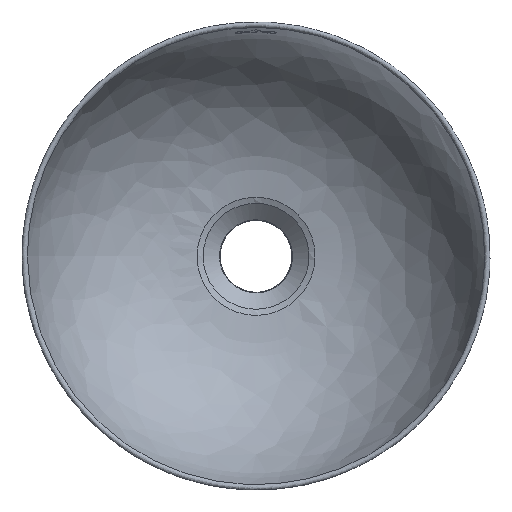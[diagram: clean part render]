
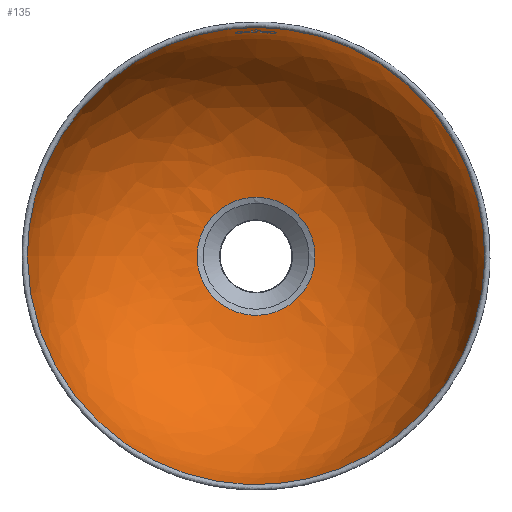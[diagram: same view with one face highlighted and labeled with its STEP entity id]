
A CAD part, top view. The second image highlights one B-rep face of the part: STEP entity #135.
In plain terms, the highlighted free-form (B-spline) face has degree [2, 3] with [9, 4] control points.
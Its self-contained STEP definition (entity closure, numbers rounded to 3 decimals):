
#135=ADVANCED_FACE('',(#248),#1693,.T.);
#248=FACE_OUTER_BOUND('',#361,.T.);
#361=EDGE_LOOP('',(#882,#883,#884,#885));
#882=ORIENTED_EDGE('',*,*,#1157,.T.);
#883=ORIENTED_EDGE('',*,*,#1154,.T.);
#884=ORIENTED_EDGE('',*,*,#1143,.F.);
#885=ORIENTED_EDGE('',*,*,#1154,.F.);
#1143=EDGE_CURVE('',#1587,#1587,#1411,.T.);
#1154=EDGE_CURVE('',#1592,#1587,#1419,.T.);
#1157=EDGE_CURVE('',#1592,#1592,#1422,.T.);
#1411=(
BOUNDED_CURVE()
B_SPLINE_CURVE(2,(#6459,#6460,#6461,#6462,#6463,#6464,#6465,#6466,#6467),
 .UNSPECIFIED.,.T.,.F.)
B_SPLINE_CURVE_WITH_KNOTS((3,2,2,2,3),(0.,59.335,118.669,
178.004,237.339),.UNSPECIFIED.)
CURVE()
GEOMETRIC_REPRESENTATION_ITEM()
RATIONAL_B_SPLINE_CURVE((1.,0.707,1.,0.707,1.,0.707,
1.,0.707,1.))
REPRESENTATION_ITEM('')
);
#1419=(
BOUNDED_CURVE()
B_SPLINE_CURVE(3,(#6519,#6520,#6521,#6522),.UNSPECIFIED.,.F.,.F.)
B_SPLINE_CURVE_WITH_KNOTS((4,4),(879.086,1044.792),
 .UNSPECIFIED.)
CURVE()
GEOMETRIC_REPRESENTATION_ITEM()
RATIONAL_B_SPLINE_CURVE((1.,0.886,0.886,1.))
REPRESENTATION_ITEM('')
);
#1422=(
BOUNDED_CURVE()
B_SPLINE_CURVE(2,(#6537,#6538,#6539,#6540,#6541,#6542,#6543,#6544,#6545),
 .UNSPECIFIED.,.T.,.F.)
B_SPLINE_CURVE_WITH_KNOTS((3,2,2,2,3),(0.,235.405,470.811,
706.216,941.621),.UNSPECIFIED.)
CURVE()
GEOMETRIC_REPRESENTATION_ITEM()
RATIONAL_B_SPLINE_CURVE((1.,0.707,1.,0.707,1.,0.707,
1.,0.707,1.))
REPRESENTATION_ITEM('')
);
#1587=VERTEX_POINT('',#6302);
#1592=VERTEX_POINT('',#6307);
#1693=(
BOUNDED_SURFACE()
B_SPLINE_SURFACE(2,3,((#6172,#6173,#6174,#6175),(#6176,#6177,#6178,#6179),
(#6180,#6181,#6182,#6183),(#6184,#6185,#6186,#6187),(#6188,#6189,#6190,
#6191),(#6192,#6193,#6194,#6195),(#6196,#6197,#6198,#6199),(#6200,#6201,
#6202,#6203),(#6204,#6205,#6206,#6207)),.UNSPECIFIED.,.T.,.F.,.F.)
B_SPLINE_SURFACE_WITH_KNOTS((3,2,2,2,3),(4,4),(0.,229.958,459.916,
689.874,919.832),(879.086,1044.792),
 .UNSPECIFIED.)
GEOMETRIC_REPRESENTATION_ITEM()
RATIONAL_B_SPLINE_SURFACE(((1.,0.886,0.886,0.999),
(0.707,0.627,0.626,0.706),
(1.,0.886,0.886,0.999),(0.707,
0.627,0.626,0.706),(1.,0.886,
0.886,0.999),(0.707,0.627,
0.626,0.706),(1.,0.886,0.886,
0.999),(0.707,0.627,0.626,
0.706),(1.,0.886,0.886,0.999)))
REPRESENTATION_ITEM('')
SURFACE()
);
#6172=CARTESIAN_POINT('',(11837.92,1341.326,-4106.006));
#6173=CARTESIAN_POINT('',(11849.521,1341.326,-4163.578));
#6174=CARTESIAN_POINT('',(11886.312,1341.326,-4209.857));
#6175=CARTESIAN_POINT('',(11946.542,1341.326,-4215.387));
#6176=CARTESIAN_POINT('',(11837.92,1194.93,-4106.006));
#6177=CARTESIAN_POINT('',(11849.521,1206.532,-4163.578));
#6178=CARTESIAN_POINT('',(11886.312,1243.322,-4209.857));
#6179=CARTESIAN_POINT('',(11946.542,1303.552,-4215.387));
#6180=CARTESIAN_POINT('',(11984.315,1194.93,-4106.006));
#6181=CARTESIAN_POINT('',(11984.315,1206.532,-4163.578));
#6182=CARTESIAN_POINT('',(11984.315,1243.322,-4209.857));
#6183=CARTESIAN_POINT('',(11984.316,1303.552,-4215.387));
#6184=CARTESIAN_POINT('',(12130.711,1194.93,-4106.006));
#6185=CARTESIAN_POINT('',(12119.11,1206.532,-4163.578));
#6186=CARTESIAN_POINT('',(12082.319,1243.322,-4209.857));
#6187=CARTESIAN_POINT('',(12022.089,1303.552,-4215.387));
#6188=CARTESIAN_POINT('',(12130.711,1341.326,-4106.006));
#6189=CARTESIAN_POINT('',(12119.11,1341.326,-4163.578));
#6190=CARTESIAN_POINT('',(12082.319,1341.326,-4209.857));
#6191=CARTESIAN_POINT('',(12022.089,1341.326,-4215.387));
#6192=CARTESIAN_POINT('',(12130.711,1487.722,-4106.006));
#6193=CARTESIAN_POINT('',(12119.11,1476.121,-4163.578));
#6194=CARTESIAN_POINT('',(12082.319,1439.33,-4209.857));
#6195=CARTESIAN_POINT('',(12022.089,1379.1,-4215.387));
#6196=CARTESIAN_POINT('',(11984.315,1487.722,-4106.006));
#6197=CARTESIAN_POINT('',(11984.315,1476.121,-4163.578));
#6198=CARTESIAN_POINT('',(11984.315,1439.33,-4209.857));
#6199=CARTESIAN_POINT('',(11984.315,1379.1,-4215.387));
#6200=CARTESIAN_POINT('',(11837.92,1487.722,-4106.006));
#6201=CARTESIAN_POINT('',(11849.521,1476.121,-4163.578));
#6202=CARTESIAN_POINT('',(11886.312,1439.33,-4209.857));
#6203=CARTESIAN_POINT('',(11946.542,1379.1,-4215.387));
#6204=CARTESIAN_POINT('',(11837.92,1341.326,-4106.006));
#6205=CARTESIAN_POINT('',(11849.521,1341.326,-4163.578));
#6206=CARTESIAN_POINT('',(11886.312,1341.326,-4209.857));
#6207=CARTESIAN_POINT('',(11946.542,1341.326,-4215.387));
#6302=CARTESIAN_POINT('',(11946.542,1341.326,-4215.387));
#6307=CARTESIAN_POINT('',(11837.92,1341.326,-4106.006));
#6459=CARTESIAN_POINT('',(11946.542,1341.326,-4215.387));
#6460=CARTESIAN_POINT('',(11946.542,1303.552,-4215.387));
#6461=CARTESIAN_POINT('',(11984.316,1303.552,-4215.387));
#6462=CARTESIAN_POINT('',(12022.089,1303.552,-4215.387));
#6463=CARTESIAN_POINT('',(12022.089,1341.326,-4215.387));
#6464=CARTESIAN_POINT('',(12022.089,1379.1,-4215.387));
#6465=CARTESIAN_POINT('',(11984.315,1379.1,-4215.387));
#6466=CARTESIAN_POINT('',(11946.542,1379.1,-4215.387));
#6467=CARTESIAN_POINT('',(11946.542,1341.326,-4215.387));
#6519=CARTESIAN_POINT('',(11837.92,1341.326,-4106.006));
#6520=CARTESIAN_POINT('',(11849.521,1341.326,-4163.578));
#6521=CARTESIAN_POINT('',(11886.312,1341.326,-4209.857));
#6522=CARTESIAN_POINT('',(11946.542,1341.326,-4215.387));
#6537=CARTESIAN_POINT('',(11837.92,1341.326,-4106.006));
#6538=CARTESIAN_POINT('',(11837.92,1194.93,-4106.006));
#6539=CARTESIAN_POINT('',(11984.315,1194.93,-4106.006));
#6540=CARTESIAN_POINT('',(12130.711,1194.93,-4106.006));
#6541=CARTESIAN_POINT('',(12130.711,1341.326,-4106.006));
#6542=CARTESIAN_POINT('',(12130.711,1487.722,-4106.006));
#6543=CARTESIAN_POINT('',(11984.315,1487.722,-4106.006));
#6544=CARTESIAN_POINT('',(11837.92,1487.722,-4106.006));
#6545=CARTESIAN_POINT('',(11837.92,1341.326,-4106.006));
